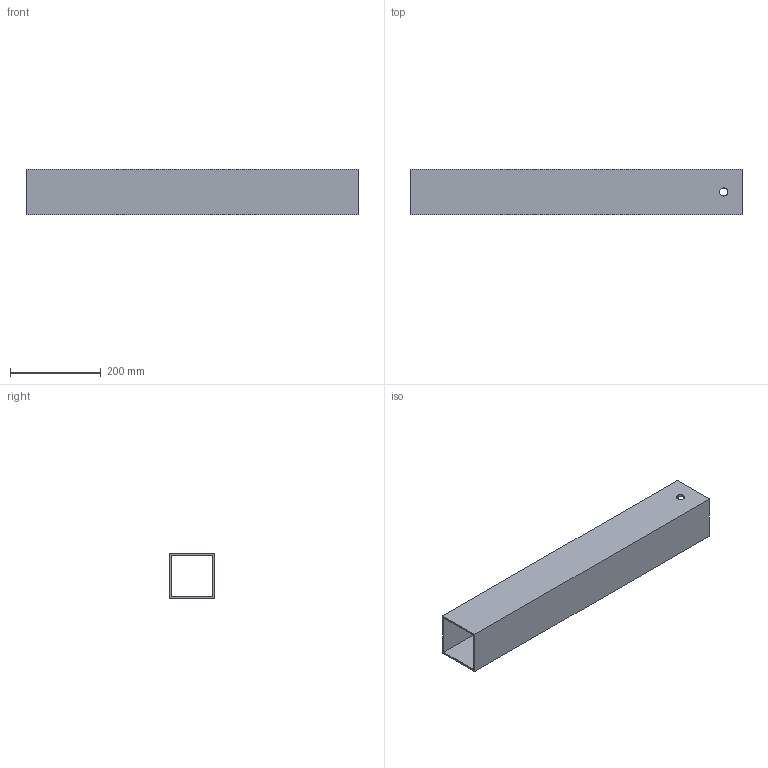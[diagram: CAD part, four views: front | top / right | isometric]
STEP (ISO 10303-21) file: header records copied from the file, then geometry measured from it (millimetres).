
FILE_DESCRIPTION(('golf model'),'2;1');
FILE_NAME('golf','',(''),(''),'golf_step_io','golf','');
FILE_SCHEMA(('AUTOMOTIVE_DESIGN { 1 0 10303 214 1 1 1 1 }'));
Length unit declared in the file: millimetre
Products named in the file (2): ASSEMBLY; cabinet_stand.stub_front
Assembly tree (1 placements, depth 2):
  ASSEMBLY
    cabinet_stand.stub_front
Bounding box: 731 x 100 x 100 mm (x, y, z)
Volume: 1120780.2 mm3; surface area: 563914.5 mm2
Topology: 1 solids, 1 shells, 12 faces, 30 edges, 20 vertices
Faces by surface type: plane 10, cylinder 2
Full cylindrical faces by diameter (mm): 18 x2
Entity records: 394 total; most frequent: CARTESIAN_POINT 62, DIRECTION 60, ORIENTED_EDGE 56, EDGE_CURVE 28, VECTOR 24, LINE 24, VERTEX_POINT 20, EDGE_LOOP 20
